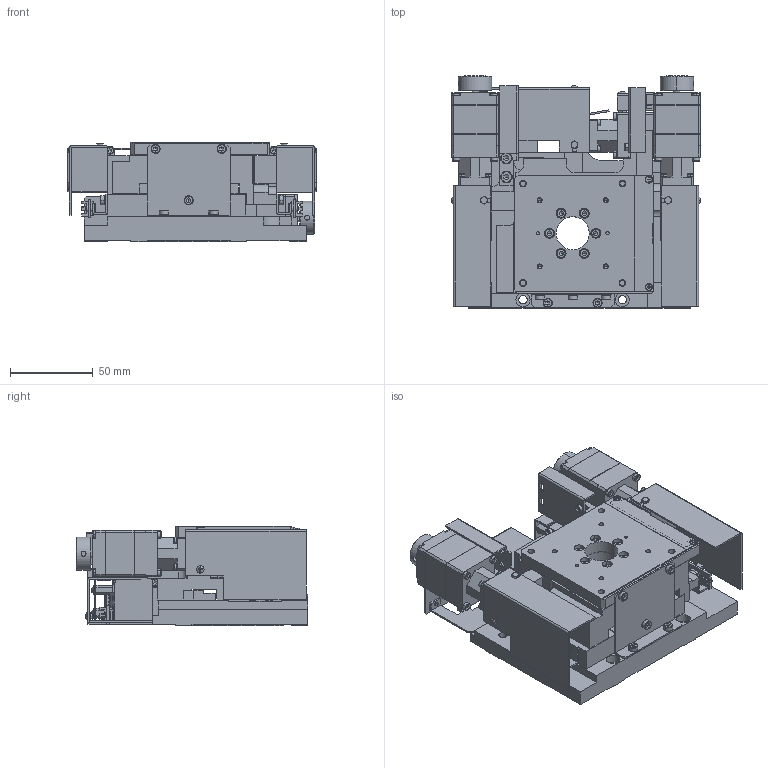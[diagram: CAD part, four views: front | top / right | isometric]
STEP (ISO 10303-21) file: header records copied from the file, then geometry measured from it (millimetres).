
FILE_DESCRIPTION( (''), '2;1');
FILE_NAME ('DR115571-0001-000-03.stp','2015-10-30T13:24:34',(''),(''),'spGate 11.3.4','spGate','');
FILE_SCHEMA (('AUTOMOTIVE_DESIGN'));
Length unit declared in the file: millimetre
Products named in the file (6): Assembly; DR115571-0001-000-03-prt0; DR115571-0001-000-03-prt1; DR115571-0001-000-03-prt2; DR115571-0001-000-03-prt3; DR115571-0001-000-03-prt4
Assembly tree (5 placements, depth 2):
  Assembly
    DR115571-0001-000-03-prt0
    DR115571-0001-000-03-prt1
    DR115571-0001-000-03-prt2
    DR115571-0001-000-03-prt3
    DR115571-0001-000-03-prt4
Bounding box: 150.35 x 140 x 60 mm (x, y, z)
Volume: 575476.2 mm3; surface area: 180834.7 mm2
Topology: 5 solids, 5 shells, 3038 faces, 7765 edges, 4854 vertices
Faces by surface type: plane 2111, cylinder 569, bspline 334, sphere 24
Entity records: 153573 total; most frequent: CARTESIAN_POINT 20198, ORIENTED_EDGE 15310, DIRECTION 14067, COLOUR_RGB 10696, PRESENTATION_STYLE_ASSIGNMENT 10696, STYLED_ITEM 10696, EDGE_CURVE 7655, DRAUGHTING_PRE_DEFINED_CURVE_FONT 7655
